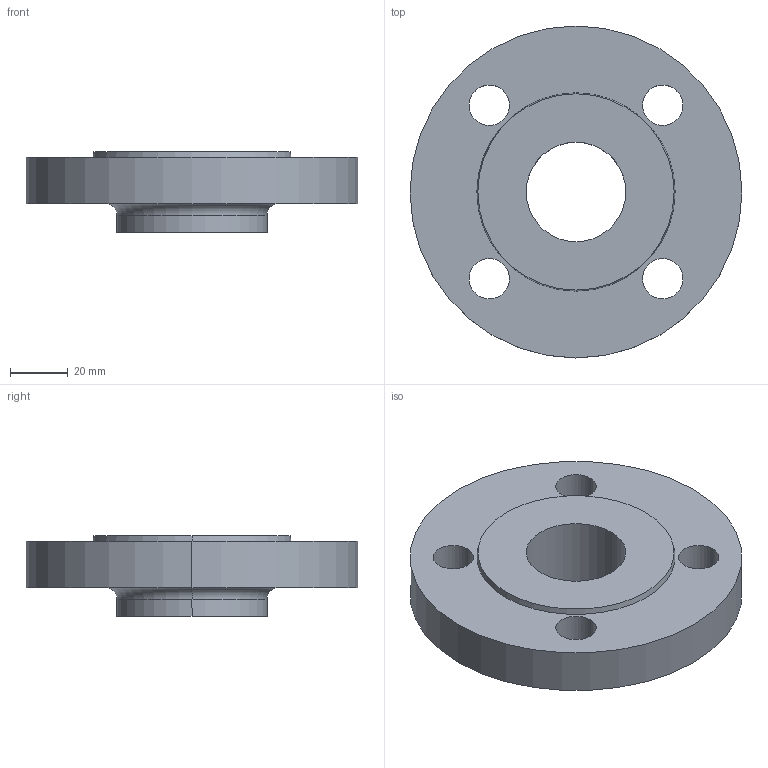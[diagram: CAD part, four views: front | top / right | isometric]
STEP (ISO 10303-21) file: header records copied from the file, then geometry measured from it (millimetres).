
FILE_DESCRIPTION (( 'STEP AP214' ), '1' );
FILE_NAME ('PN40 DN25 Type 12 - Type B Face.STEP', '2018-12-29T20:29:38', ( '' ), ( '' ), 'SwSTEP 2.0', 'SolidWorks 2019', '' );
FILE_SCHEMA (( 'AUTOMOTIVE_DESIGN' ));
Length unit declared in the file: millimetre
Products named in the file (1): PN40 DN25 Type 12 - Type B Face
Bounding box: 115 x 115 x 28 mm (x, y, z)
Volume: 159319.6 mm3; surface area: 31023.5 mm2
Topology: 1 solids, 1 shells, 22 faces, 52 edges, 34 vertices
Faces by surface type: cylinder 14, plane 4, torus 2, cone 2
Entity records: 710 total; most frequent: DIRECTION 134, CARTESIAN_POINT 109, ORIENTED_EDGE 104, AXIS2_PLACEMENT_3D 59, EDGE_CURVE 52, CIRCLE 36, VERTEX_POINT 34, EDGE_LOOP 34
